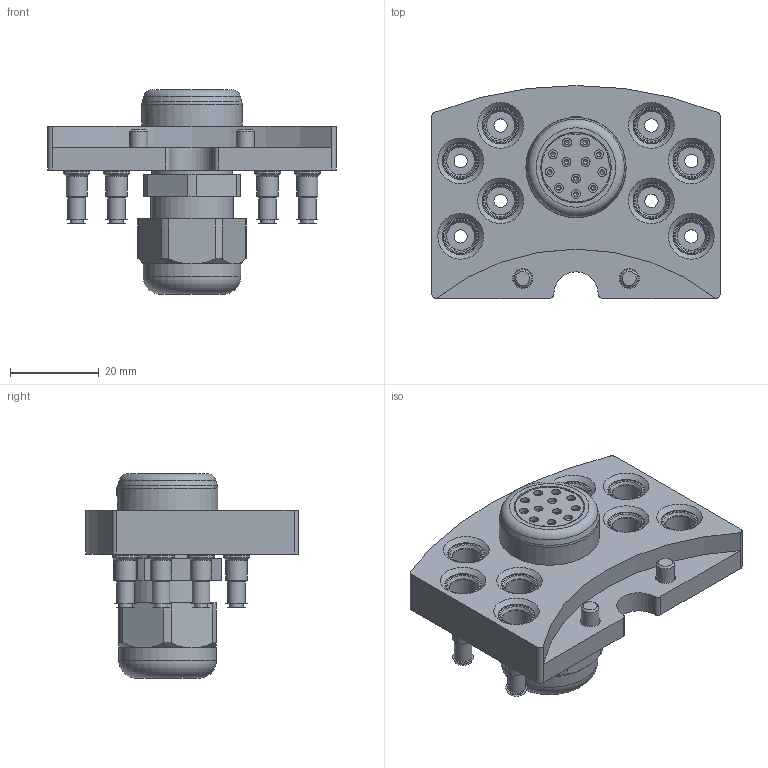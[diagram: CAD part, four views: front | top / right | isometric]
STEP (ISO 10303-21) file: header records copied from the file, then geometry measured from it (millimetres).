
FILE_DESCRIPTION(/* description */ (''),/* implementation_level */ '2;1');
FILE_NAME(/* name */ '\\dc01\daten\CAD\Standard\Daten\3D-Datenbank\Webseite 2020\MGW\MGW100\G-MEK100-U-8Pk4-1E12.stp',/* time_stamp */ '2020-05-12T13:10:34+02:00',/* author */ ('ysplieth'),/* organization */ (''),/* preprocessor_version */ 'ST-DEVELOPER v17',/* originating_system */ 'Autodesk Inventor 2018',/* authorisation */ '');
FILE_SCHEMA (('AUTOMOTIVE_DESIGN { 1 0 10303 214 3 1 1 }'));
Length unit declared in the file: millimetre
Products named in the file (1): G-MEK100-U-8Pk4-1E12
Bounding box: 65 x 48 x 46.1 mm (x, y, z)
Volume: 34559.3 mm3; surface area: 21752.2 mm2
Topology: 1 solids, 1 shells, 511 faces, 1416 edges, 957 vertices
Faces by surface type: cylinder 202, plane 179, cone 89, torus 41
Full cylindrical faces by diameter (mm): 1 x12, 1.6 x12, 2 x16, 2.013 x2, 3 x8, 4 x10, 4.5 x2, 4.8 x8, 5.5 x8, 5.9 x8, 6 x8, 6.3 x8, 7 x2, 8 x10, 8.3 x8, 10 x1, 15.9 x1, 17.1 x1, 18.1 x1, 18.5 x1, 22 x1, 22.6 x1
Entity records: 18694 total; most frequent: CARTESIAN_POINT 4404, DIRECTION 3072, ORIENTED_EDGE 2798, EDGE_CURVE 1399, AXIS2_PLACEMENT_3D 1272, VERTEX_POINT 957, CIRCLE 760, EDGE_LOOP 633
